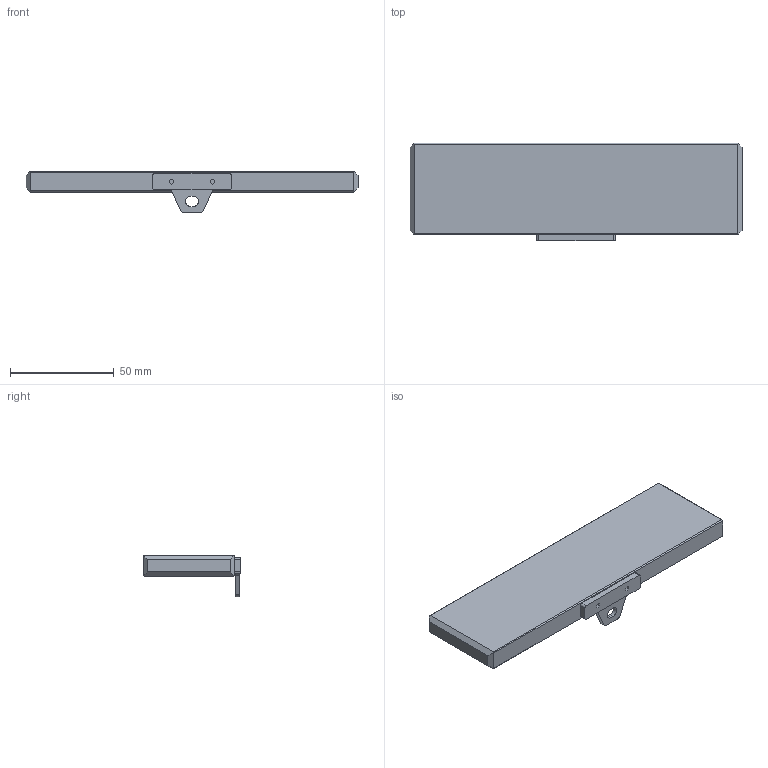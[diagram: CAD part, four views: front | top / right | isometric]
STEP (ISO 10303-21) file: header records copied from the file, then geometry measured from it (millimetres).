
FILE_DESCRIPTION((''),'2;1');
FILE_NAME('FG_VC_BASIC_C0036NP001','2026-02-23T17:24:20',('Admin'),(''),'CREO PARAMETRIC BY PTC INC, 2025010','CREO PARAMETRIC BY PTC INC, 2025010','');
FILE_SCHEMA(('CONFIG_CONTROL_DESIGN'));
Length unit declared in the file: millimetre
Products named in the file (1): FG_VC_BASIC_C0036NP001
Bounding box: 160 x 47 x 20 mm (x, y, z)
Volume: 71044.6 mm3; surface area: 18500.6 mm2
Topology: 1 solids, 5 shells, 82 faces, 204 edges, 130 vertices
Faces by surface type: plane 48, cylinder 22, cone 12
Entity records: 2438 total; most frequent: DIRECTION 416, CARTESIAN_POINT 412, ORIENTED_EDGE 400, EDGE_CURVE 200, VECTOR 148, LINE 148, AXIS2_PLACEMENT_3D 134, VERTEX_POINT 130
